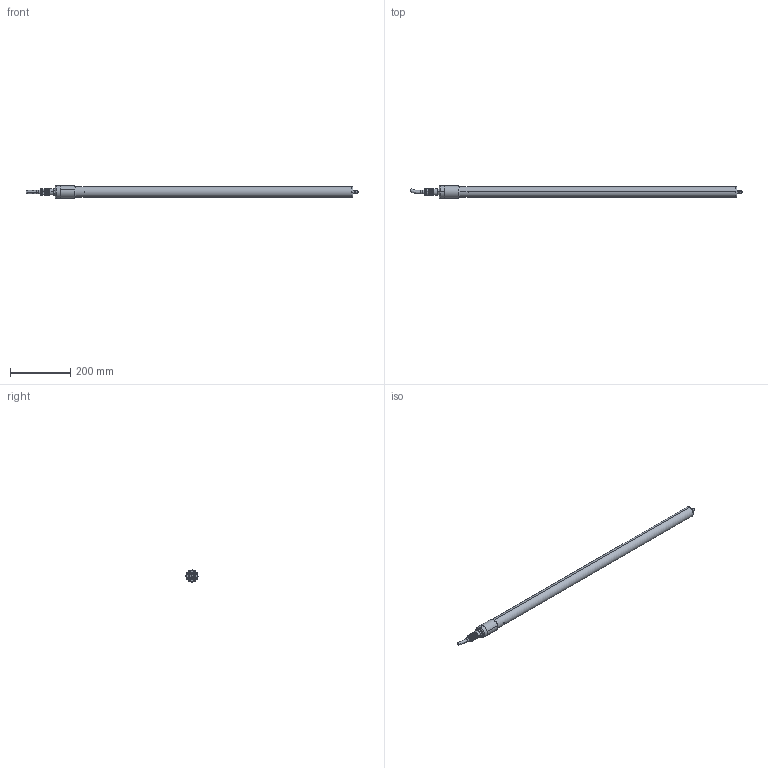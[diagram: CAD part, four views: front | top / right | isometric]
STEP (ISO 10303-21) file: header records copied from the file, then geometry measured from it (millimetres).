
FILE_DESCRIPTION (( 'STEP AP214' ), '1' );
FILE_NAME ('S125-800AJ50.STEP', '2025-04-10T10:26:02', ( '' ), ( '' ), 'SwSTEP 2.0', 'SolidWorks 2023', '' );
FILE_SCHEMA (( 'AUTOMOTIVE_DESIGN' ));
Length unit declared in the file: millimetre
Products named in the file (1): S125-800AJ50
Bounding box: 1098.45 x 40 x 40 mm (x, y, z)
Surface area: 152373 mm2 (no closed solid volume)
Topology: 0 solids, 14 shells, 193 faces, 848 edges, 574 vertices
Faces by surface type: cylinder 154, plane 21, cone 10, torus 6, bspline 2
Entity records: 11223 total; most frequent: CARTESIAN_POINT 4375, DIRECTION 1480, ORIENTED_EDGE 1384, EDGE_CURVE 848, AXIS2_PLACEMENT_3D 595, VERTEX_POINT 574, CIRCLE 403, LINE 290
